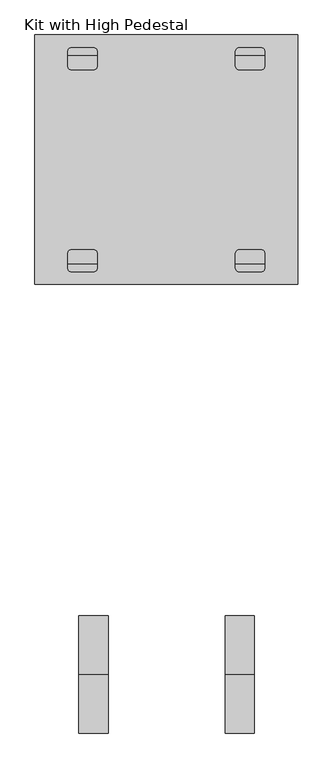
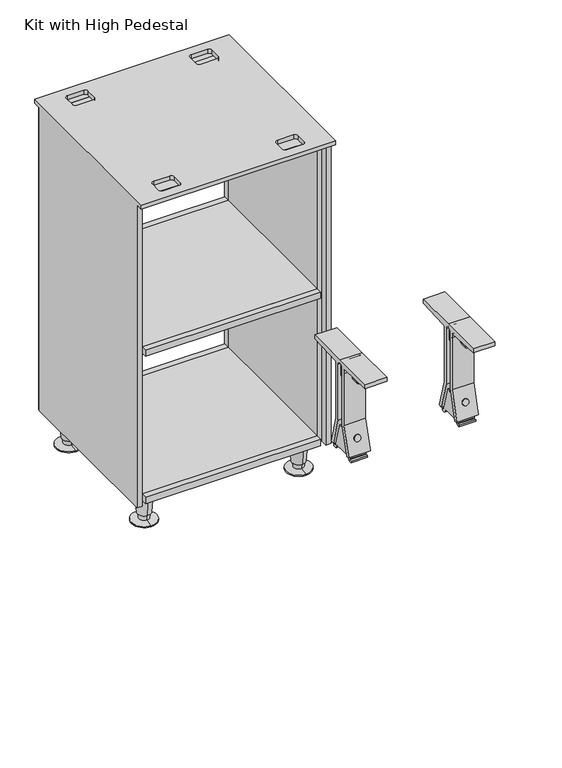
"""IFC4 building model written with IfcOpenShell, lengths in millimetres: furniture geometry, Steelcase - C Scape - Mid Storage Support - Mirrored Application : Kit with High Pedestal."""

from ifc_helpers import new_model, si_unit, point, frame, frame_2d, origin, place, context, project, spatial, polyline, circle_curve, trimmed, segment, composite_curve, outline, extrude, faceted_brep, source, transform, mapped, element, save
from ifc_brep_helpers import plane_surface, cylinder_surface, revolved_surface, advanced_brep


def kit_with_high_pedestal_ce1e90b8(model_context):
    return source(origin(), model_context, "Body", "SolidModel", [
        advanced_brep(
        [(485.775, 716.4234203, 0.0), (485.775, 775.6488603, 0.0), (485.775, 746.0361403, 0.0), (485.775, 716.4234203, 2.6912335), (485.775, 775.6488603, 2.6912335), (485.775, 734.0785526, 5.8043097), (485.775, 757.993728, 5.8043097), (485.775, 733.3843753, 19.05), (485.775, 758.6879052, 19.05), (485.775, 730.6582796, 19.05), (485.775, 761.4140009, 19.05), (485.775, 726.6619623, 76.2), (485.775, 765.4103183, 76.2), (485.775, 746.0361403, 76.2)],
        [
            (0, 1, circle_curve(frame((485.775, 746.0361403, 0.0), z_axis=(0.0, 0.0, -1.0), x_axis=(0.0, 1.0, 0.0)), 29.61272)),
            (1, 2),
            (2, 0),
            (1, 0, circle_curve(frame((485.775, 746.0361403, 0.0), z_axis=(0.0, 0.0, -1.0), x_axis=(0.0, 1.0, 0.0)), 29.61272)),
            (3, 4, circle_curve(frame((485.775, 746.0361403, 2.6912335), z_axis=(0.0, 0.0, -1.0), x_axis=(0.0, 1.0, 0.0)), 29.61272)),
            (4, 1),
            (0, 3),
            (4, 3, circle_curve(frame((485.775, 746.0361403, 2.6912335), z_axis=(0.0, 0.0, -1.0), x_axis=(0.0, 1.0, 0.0)), 29.61272)),
            (5, 6, circle_curve(frame((485.775, 746.0361403, 5.8043097), z_axis=(0.0, 0.0, -1.0), x_axis=(0.0, 1.0, 0.0)), 11.9575877)),
            (6, 4),
            (3, 5),
            (6, 5, circle_curve(frame((485.775, 746.0361403, 5.8043097), z_axis=(0.0, 0.0, -1.0), x_axis=(0.0, 1.0, 0.0)), 11.9575877)),
            (7, 8, circle_curve(frame((485.775, 746.0361403, 19.05), z_axis=(0.0, 0.0, -1.0), x_axis=(0.0, 1.0, 0.0)), 12.6517649)),
            (8, 6),
            (5, 7),
            (8, 7, circle_curve(frame((485.775, 746.0361403, 19.05), z_axis=(0.0, 0.0, -1.0), x_axis=(0.0, 1.0, 0.0)), 12.6517649)),
            (9, 10, circle_curve(frame((485.775, 746.0361403, 19.05), z_axis=(0.0, 0.0, -1.0), x_axis=(0.0, 1.0, 0.0)), 15.3778607)),
            (10, 8),
            (7, 9),
            (10, 9, circle_curve(frame((485.775, 746.0361403, 19.05), z_axis=(0.0, 0.0, -1.0), x_axis=(0.0, 1.0, 0.0)), 15.3778607)),
            (11, 12, circle_curve(frame((485.775, 746.0361403, 76.2), z_axis=(0.0, 0.0, -1.0), x_axis=(0.0, 1.0, 0.0)), 19.374178)),
            (12, 10),
            (9, 11),
            (12, 11, circle_curve(frame((485.775, 746.0361403, 76.2), z_axis=(0.0, 0.0, -1.0), x_axis=(0.0, 1.0, 0.0)), 19.374178)),
            (13, 12),
            (11, 13),
        ],
        [
            plane_surface(frame((485.775, 746.0361403, 0.0), z_axis=(0.0, 0.0, -1.0), x_axis=(0.0, 1.0, 0.0))),
            cylinder_surface(frame((485.775, 746.0361403, -7.7422201), z_axis=(0.0, 0.0, 1.0), x_axis=(0.0, 1.0, 0.0)), 29.61272),
            revolved_surface(polyline([(485.775, 775.6488603, 2.6912335), (485.775, 757.993728, 5.8043097)]), (485.775, 746.0361403, -7.7422201), (0.0, 0.0, 1.0)),
            revolved_surface(polyline([(485.775, 757.993728, 5.8043097), (485.775, 758.6879052, 19.05)]), (485.775, 746.0361403, -7.7422201), (0.0, 0.0, 1.0)),
            plane_surface(frame((485.775, 746.0361403, 19.05), z_axis=(0.0, 0.0, -1.0), x_axis=(0.0, 1.0, 0.0))),
            revolved_surface(polyline([(485.775, 761.4140009, 19.05), (485.775, 765.4103183, 76.2)]), (485.775, 746.0361403, -7.7422201), (0.0, 0.0, 1.0)),
            plane_surface(frame((485.775, 746.0361403, 76.2), z_axis=(0.0, 0.0, 1.0), x_axis=(0.0, 1.0, 0.0))),
        ],
        [
            (0, [[1, 2, 3]]),
            (0, [[4, -3, -2]]),
            (1, [[5, 6, -1, 7]]),
            (1, [[8, -7, -4, -6]]),
            (2, [[9, 10, -5, 11]]),
            (2, [[12, -11, -8, -10]]),
            (3, [[13, 14, -9, 15]]),
            (3, [[16, -15, -12, -14]]),
            (4, [[17, 18, -13, 19]]),
            (4, [[20, -19, -16, -18]]),
            (5, [[21, 22, -17, 23]]),
            (5, [[24, -23, -20, -22]]),
            (6, [[25, -21, 26]]),
            (6, [[-26, -24, -25]]),
        ],
    ),
        advanced_brep(
        [(485.775, 1071.902017, 76.2), (485.775, 1033.153661, 76.2), (485.775, 1052.527839, 76.2), (485.775, 1067.9056997, 19.05), (485.775, 1037.1499783, 19.05), (485.775, 1065.1796039, 19.05), (485.775, 1039.8760741, 19.05), (485.775, 1064.4854267, 5.8043097), (485.775, 1040.5702513, 5.8043097), (485.775, 1082.140559, 2.6912335), (485.775, 1022.915119, 2.6912335), (485.775, 1082.140559, 0.0), (485.775, 1022.915119, 0.0), (485.775, 1052.527839, 0.0)],
        [
            (0, 1, circle_curve(frame((485.775, 1052.527839, 76.2), z_axis=(0.0, 0.0, 1.0), x_axis=(0.0, -1.0, 0.0)), 19.374178)),
            (1, 2),
            (2, 0),
            (1, 0, circle_curve(frame((485.775, 1052.527839, 76.2), z_axis=(0.0, 0.0, 1.0), x_axis=(0.0, -1.0, 0.0)), 19.374178)),
            (3, 4, circle_curve(frame((485.775, 1052.527839, 19.05), z_axis=(0.0, 0.0, 1.0), x_axis=(0.0, -1.0, 0.0)), 15.3778607)),
            (4, 1),
            (0, 3),
            (4, 3, circle_curve(frame((485.775, 1052.527839, 19.05), z_axis=(0.0, 0.0, 1.0), x_axis=(0.0, -1.0, 0.0)), 15.3778607)),
            (5, 6, circle_curve(frame((485.775, 1052.527839, 19.05), z_axis=(0.0, 0.0, 1.0), x_axis=(0.0, -1.0, 0.0)), 12.6517649)),
            (6, 4),
            (3, 5),
            (6, 5, circle_curve(frame((485.775, 1052.527839, 19.05), z_axis=(0.0, 0.0, 1.0), x_axis=(0.0, -1.0, 0.0)), 12.6517649)),
            (7, 8, circle_curve(frame((485.775, 1052.527839, 5.8043097), z_axis=(0.0, 0.0, 1.0), x_axis=(0.0, -1.0, 0.0)), 11.9575877)),
            (8, 6),
            (5, 7),
            (8, 7, circle_curve(frame((485.775, 1052.527839, 5.8043097), z_axis=(0.0, 0.0, 1.0), x_axis=(0.0, -1.0, 0.0)), 11.9575877)),
            (9, 10, circle_curve(frame((485.775, 1052.527839, 2.6912335), z_axis=(0.0, 0.0, 1.0), x_axis=(0.0, -1.0, 0.0)), 29.61272)),
            (10, 8),
            (7, 9),
            (10, 9, circle_curve(frame((485.775, 1052.527839, 2.6912335), z_axis=(0.0, 0.0, 1.0), x_axis=(0.0, -1.0, 0.0)), 29.61272)),
            (11, 12, circle_curve(frame((485.775, 1052.527839, 0.0), z_axis=(0.0, 0.0, 1.0), x_axis=(0.0, -1.0, 0.0)), 29.61272)),
            (12, 10),
            (9, 11),
            (12, 11, circle_curve(frame((485.775, 1052.527839, 0.0), z_axis=(0.0, 0.0, 1.0), x_axis=(0.0, -1.0, 0.0)), 29.61272)),
            (13, 12),
            (11, 13),
        ],
        [
            plane_surface(frame((485.775, 1052.527839, 76.2), z_axis=(0.0, 0.0, 1.0), x_axis=(0.0, -1.0, 0.0))),
            revolved_surface(polyline([(485.775, 1033.153661, 76.2), (485.775, 1037.1499783, 19.05)]), (485.775, 1052.527839, -7.7422201), (0.0, 0.0, -1.0)),
            plane_surface(frame((485.775, 1052.527839, 19.05), z_axis=(0.0, 0.0, -1.0), x_axis=(0.0, -1.0, 0.0))),
            revolved_surface(polyline([(485.775, 1039.8760741, 19.05), (485.775, 1040.5702513, 5.8043097)]), (485.775, 1052.527839, -7.7422201), (0.0, 0.0, -1.0)),
            revolved_surface(polyline([(485.775, 1040.5702513, 5.8043097), (485.775, 1022.915119, 2.6912335)]), (485.775, 1052.527839, -7.7422201), (0.0, 0.0, -1.0)),
            cylinder_surface(frame((485.775, 1052.527839, -7.7422201), z_axis=(0.0, 0.0, -1.0), x_axis=(0.0, -1.0, 0.0)), 29.61272),
            plane_surface(frame((485.775, 1052.527839, 0.0), z_axis=(0.0, 0.0, -1.0), x_axis=(0.0, -1.0, 0.0))),
        ],
        [
            (0, [[1, 2, 3]]),
            (0, [[4, -3, -2]]),
            (1, [[5, 6, -1, 7]]),
            (1, [[8, -7, -4, -6]]),
            (2, [[9, 10, -5, 11]]),
            (2, [[12, -11, -8, -10]]),
            (3, [[13, 14, -9, 15]]),
            (3, [[16, -15, -12, -14]]),
            (4, [[17, 18, -13, 19]]),
            (4, [[20, -19, -16, -18]]),
            (5, [[21, 22, -17, 23]]),
            (5, [[24, -23, -20, -22]]),
            (6, [[25, -21, 26]]),
            (6, [[-26, -24, -25]]),
        ],
    ),
        advanced_brep(
        [(122.5548062, 726.6619623, 76.2), (122.5548062, 765.4103183, 76.2), (122.5548062, 746.0361403, 76.2), (122.5548062, 730.6582796, 19.05), (122.5548062, 761.4140009, 19.05), (122.5548062, 733.3843753, 19.05), (122.5548062, 758.6879052, 19.05), (122.5548062, 734.0785526, 5.8043097), (122.5548062, 757.993728, 5.8043097), (122.5548062, 716.4234203, 2.6912335), (122.5548062, 775.6488603, 2.6912335), (122.5548062, 716.4234203, 0.0), (122.5548062, 775.6488603, 0.0), (122.5548062, 746.0361403, 0.0)],
        [
            (0, 1, circle_curve(frame((122.5548062, 746.0361403, 76.2), z_axis=(0.0, 0.0, 1.0), x_axis=(0.0, 1.0, 0.0)), 19.374178)),
            (1, 2),
            (2, 0),
            (1, 0, circle_curve(frame((122.5548062, 746.0361403, 76.2), z_axis=(0.0, 0.0, 1.0), x_axis=(0.0, 1.0, 0.0)), 19.374178)),
            (3, 4, circle_curve(frame((122.5548062, 746.0361403, 19.05), z_axis=(0.0, 0.0, 1.0), x_axis=(0.0, 1.0, 0.0)), 15.3778607)),
            (4, 1),
            (0, 3),
            (4, 3, circle_curve(frame((122.5548062, 746.0361403, 19.05), z_axis=(0.0, 0.0, 1.0), x_axis=(0.0, 1.0, 0.0)), 15.3778607)),
            (5, 6, circle_curve(frame((122.5548062, 746.0361403, 19.05), z_axis=(0.0, 0.0, 1.0), x_axis=(0.0, 1.0, 0.0)), 12.6517649)),
            (6, 4),
            (3, 5),
            (6, 5, circle_curve(frame((122.5548062, 746.0361403, 19.05), z_axis=(0.0, 0.0, 1.0), x_axis=(0.0, 1.0, 0.0)), 12.6517649)),
            (7, 8, circle_curve(frame((122.5548062, 746.0361403, 5.8043097), z_axis=(0.0, 0.0, 1.0), x_axis=(0.0, 1.0, 0.0)), 11.9575877)),
            (8, 6),
            (5, 7),
            (8, 7, circle_curve(frame((122.5548062, 746.0361403, 5.8043097), z_axis=(0.0, 0.0, 1.0), x_axis=(0.0, 1.0, 0.0)), 11.9575877)),
            (9, 10, circle_curve(frame((122.5548062, 746.0361403, 2.6912335), z_axis=(0.0, 0.0, 1.0), x_axis=(0.0, 1.0, 0.0)), 29.61272)),
            (10, 8),
            (7, 9),
            (10, 9, circle_curve(frame((122.5548062, 746.0361403, 2.6912335), z_axis=(0.0, 0.0, 1.0), x_axis=(0.0, 1.0, 0.0)), 29.61272)),
            (11, 12, circle_curve(frame((122.5548062, 746.0361403, 0.0), z_axis=(0.0, 0.0, 1.0), x_axis=(0.0, 1.0, 0.0)), 29.61272)),
            (12, 10),
            (9, 11),
            (12, 11, circle_curve(frame((122.5548062, 746.0361403, 0.0), z_axis=(0.0, 0.0, 1.0), x_axis=(0.0, 1.0, 0.0)), 29.61272)),
            (13, 12),
            (11, 13),
        ],
        [
            plane_surface(frame((122.5548062, 746.0361403, 76.2), z_axis=(0.0, 0.0, 1.0), x_axis=(0.0, 1.0, 0.0))),
            revolved_surface(polyline([(122.5548062, 765.4103183, 76.2), (122.5548062, 761.4140009, 19.05)]), (122.5548062, 746.0361403, -7.7422201), (0.0, 0.0, -1.0)),
            plane_surface(frame((122.5548062, 746.0361403, 19.05), z_axis=(0.0, 0.0, -1.0), x_axis=(0.0, 1.0, 0.0))),
            revolved_surface(polyline([(122.5548062, 758.6879052, 19.05), (122.5548062, 757.993728, 5.8043097)]), (122.5548062, 746.0361403, -7.7422201), (0.0, 0.0, -1.0)),
            revolved_surface(polyline([(122.5548062, 757.993728, 5.8043097), (122.5548062, 775.6488603, 2.6912335)]), (122.5548062, 746.0361403, -7.7422201), (0.0, 0.0, -1.0)),
            cylinder_surface(frame((122.5548062, 746.0361403, -7.7422201), z_axis=(0.0, 0.0, -1.0), x_axis=(0.0, 1.0, 0.0)), 29.61272),
            plane_surface(frame((122.5548062, 746.0361403, 0.0), z_axis=(0.0, 0.0, -1.0), x_axis=(0.0, 1.0, 0.0))),
        ],
        [
            (0, [[1, 2, 3]]),
            (0, [[4, -3, -2]]),
            (1, [[5, 6, -1, 7]]),
            (1, [[8, -7, -4, -6]]),
            (2, [[9, 10, -5, 11]]),
            (2, [[12, -11, -8, -10]]),
            (3, [[13, 14, -9, 15]]),
            (3, [[16, -15, -12, -14]]),
            (4, [[17, 18, -13, 19]]),
            (4, [[20, -19, -16, -18]]),
            (5, [[21, 22, -17, 23]]),
            (5, [[24, -23, -20, -22]]),
            (6, [[25, -21, 26]]),
            (6, [[-26, -24, -25]]),
        ],
    ),
        advanced_brep(
        [(122.5548062, 1082.140559, 0.0), (122.5548062, 1022.915119, 0.0), (122.5548062, 1052.527839, 0.0), (122.5548062, 1082.140559, 2.6912335), (122.5548062, 1022.915119, 2.6912335), (122.5548062, 1064.4854267, 5.8043097), (122.5548062, 1040.5702513, 5.8043097), (122.5548062, 1065.1796039, 19.05), (122.5548062, 1039.8760741, 19.05), (122.5548062, 1067.9056997, 19.05), (122.5548062, 1037.1499783, 19.05), (122.5548062, 1071.902017, 76.2), (122.5548062, 1033.153661, 76.2), (122.5548062, 1052.527839, 76.2)],
        [
            (0, 1, circle_curve(frame((122.5548062, 1052.527839, 0.0), z_axis=(0.0, 0.0, -1.0), x_axis=(0.0, -1.0, 0.0)), 29.61272)),
            (1, 2),
            (2, 0),
            (1, 0, circle_curve(frame((122.5548062, 1052.527839, 0.0), z_axis=(0.0, 0.0, -1.0), x_axis=(0.0, -1.0, 0.0)), 29.61272)),
            (3, 4, circle_curve(frame((122.5548062, 1052.527839, 2.6912335), z_axis=(0.0, 0.0, -1.0), x_axis=(0.0, -1.0, 0.0)), 29.61272)),
            (4, 1),
            (0, 3),
            (4, 3, circle_curve(frame((122.5548062, 1052.527839, 2.6912335), z_axis=(0.0, 0.0, -1.0), x_axis=(0.0, -1.0, 0.0)), 29.61272)),
            (5, 6, circle_curve(frame((122.5548062, 1052.527839, 5.8043097), z_axis=(0.0, 0.0, -1.0), x_axis=(0.0, -1.0, 0.0)), 11.9575877)),
            (6, 4),
            (3, 5),
            (6, 5, circle_curve(frame((122.5548062, 1052.527839, 5.8043097), z_axis=(0.0, 0.0, -1.0), x_axis=(0.0, -1.0, 0.0)), 11.9575877)),
            (7, 8, circle_curve(frame((122.5548062, 1052.527839, 19.05), z_axis=(0.0, 0.0, -1.0), x_axis=(0.0, -1.0, 0.0)), 12.6517649)),
            (8, 6),
            (5, 7),
            (8, 7, circle_curve(frame((122.5548062, 1052.527839, 19.05), z_axis=(0.0, 0.0, -1.0), x_axis=(0.0, -1.0, 0.0)), 12.6517649)),
            (9, 10, circle_curve(frame((122.5548062, 1052.527839, 19.05), z_axis=(0.0, 0.0, -1.0), x_axis=(0.0, -1.0, 0.0)), 15.3778607)),
            (10, 8),
            (7, 9),
            (10, 9, circle_curve(frame((122.5548062, 1052.527839, 19.05), z_axis=(0.0, 0.0, -1.0), x_axis=(0.0, -1.0, 0.0)), 15.3778607)),
            (11, 12, circle_curve(frame((122.5548062, 1052.527839, 76.2), z_axis=(0.0, 0.0, -1.0), x_axis=(0.0, -1.0, 0.0)), 19.374178)),
            (12, 10),
            (9, 11),
            (12, 11, circle_curve(frame((122.5548062, 1052.527839, 76.2), z_axis=(0.0, 0.0, -1.0), x_axis=(0.0, -1.0, 0.0)), 19.374178)),
            (13, 12),
            (11, 13),
        ],
        [
            plane_surface(frame((122.5548062, 1052.527839, 0.0), z_axis=(0.0, 0.0, -1.0), x_axis=(0.0, -1.0, 0.0))),
            cylinder_surface(frame((122.5548062, 1052.527839, -7.7422201), z_axis=(0.0, 0.0, 1.0), x_axis=(0.0, -1.0, 0.0)), 29.61272),
            revolved_surface(polyline([(122.5548062, 1022.915119, 2.6912335), (122.5548062, 1040.5702513, 5.8043097)]), (122.5548062, 1052.527839, -7.7422201), (0.0, 0.0, 1.0)),
            revolved_surface(polyline([(122.5548062, 1040.5702513, 5.8043097), (122.5548062, 1039.8760741, 19.05)]), (122.5548062, 1052.527839, -7.7422201), (0.0, 0.0, 1.0)),
            plane_surface(frame((122.5548062, 1052.527839, 19.05), z_axis=(0.0, 0.0, -1.0), x_axis=(0.0, -1.0, 0.0))),
            revolved_surface(polyline([(122.5548062, 1037.1499783, 19.05), (122.5548062, 1033.153661, 76.2)]), (122.5548062, 1052.527839, -7.7422201), (0.0, 0.0, 1.0)),
            plane_surface(frame((122.5548062, 1052.527839, 76.2), z_axis=(0.0, 0.0, 1.0), x_axis=(0.0, -1.0, 0.0))),
        ],
        [
            (0, [[1, 2, 3]]),
            (0, [[4, -3, -2]]),
            (1, [[5, 6, -1, 7]]),
            (1, [[8, -7, -4, -6]]),
            (2, [[9, 10, -5, 11]]),
            (2, [[12, -11, -8, -10]]),
            (3, [[13, 14, -9, 15]]),
            (3, [[16, -15, -12, -14]]),
            (4, [[17, 18, -13, 19]]),
            (4, [[20, -19, -16, -18]]),
            (5, [[21, 22, -17, 23]]),
            (5, [[24, -23, -20, -22]]),
            (6, [[25, -21, 26]]),
            (6, [[-26, -24, -25]]),
        ],
    ),
        advanced_brep(
        [(76.2, 676.7144509, 838.2), (76.2, 1109.7844509, 838.2), (76.2, 1109.7844509, 828.04), (76.2, 1091.4964509, 828.04), (76.2, 1091.4964509, 76.2), (76.2, 694.7484509, 76.2), (76.2, 694.7484509, 828.04), (76.2, 676.7144509, 828.04), (532.13, 676.7144509, 838.2), (532.13, 676.7144509, 828.04), (532.13, 694.7484509, 828.04), (532.13, 694.7484509, 76.2), (532.13, 1091.4964509, 76.2), (532.13, 1091.4964509, 828.04), (532.13, 1109.7844509, 828.04), (532.13, 1109.7844509, 838.2), (98.4248062, 712.5284276, 92.7100024), (509.9051938, 712.5284276, 92.7100024), (509.9051938, 1073.7164741, 92.7100024), (98.4248062, 1073.7164741, 92.7100024), (519.9127225, 1073.7164741, 828.04), (519.9127225, 1073.7164741, 76.2), (88.4172775, 1073.7164741, 76.2), (88.4172775, 1073.7164741, 828.04), (133.3501938, 1073.7164741, 828.04), (184.1498062, 1073.7164741, 828.04), (424.1799225, 1073.7164741, 828.04), (474.9795349, 1073.7164741, 828.04), (509.9051938, 1073.7164741, 441.604404), (98.4248062, 1073.7164741, 441.604404), (98.4248062, 1073.7164741, 457.2), (509.9051938, 1073.7164741, 457.2), (509.9051938, 1073.7164741, 811.5299709), (98.4248062, 1073.7164741, 811.5299709), (88.4172775, 1091.4964509, 76.2), (519.9127225, 1091.4964509, 76.2), (519.9127225, 694.7484509, 76.2), (519.9127225, 712.5284276, 76.2), (88.4172775, 712.5284276, 76.2), (88.4172775, 694.7484509, 76.2), (424.1799225, 712.5284276, 828.04), (184.1498062, 712.5284276, 828.04), (133.3501938, 712.5284276, 828.04), (88.4172775, 712.5284276, 828.04), (519.9127225, 712.5284276, 828.04), (474.9795349, 712.5284276, 828.04), (98.4248062, 712.5284276, 441.604404), (509.9051938, 712.5284276, 441.604404), (509.9051938, 712.5284276, 457.2), (98.4248062, 712.5284276, 457.2), (98.4248062, 712.5284276, 811.5299709), (509.9051938, 712.5284276, 811.5299709), (177.7998062, 698.8124044, 838.2), (139.7001938, 698.8124044, 838.2), (133.3501938, 705.1631795, 838.2), (133.3501938, 730.5624044, 838.2), (139.7001938, 736.9124044, 838.2), (177.7998062, 736.9124044, 838.2), (184.1498062, 730.5624044, 838.2), (184.1498062, 705.1631795, 838.2), (430.529535, 698.8131795, 838.2), (424.1799225, 705.1631795, 838.2), (424.1799225, 730.5624044, 838.2), (430.5299225, 736.9124044, 838.2), (468.6295349, 736.9124044, 838.2), (474.9795349, 730.5624044, 838.2), (474.9795349, 705.1631795, 838.2), (468.6295349, 698.8131795, 838.2), (184.1498062, 1055.6829392, 838.2), (177.7998062, 1049.3329392, 838.2), (139.7001938, 1049.3321641, 838.2), (133.3501938, 1055.6829392, 838.2), (133.3501938, 1081.0821641, 838.2), (139.7001938, 1087.4321641, 838.2), (177.7998062, 1087.4321641, 838.2), (184.1498062, 1081.0821641, 838.2), (468.6295349, 1049.3321641, 838.2), (430.529535, 1049.3321641, 838.2), (424.1799225, 1055.6829392, 838.2), (424.1799225, 1081.0821641, 838.2), (430.5299225, 1087.4321641, 838.2), (468.6295349, 1087.4321641, 838.2), (474.9795349, 1081.0821641, 838.2), (474.9795349, 1055.6829392, 838.2), (519.9127225, 1091.4964509, 828.04), (474.9795349, 1081.0821641, 828.04), (468.6295349, 1087.4321641, 828.04), (430.5299225, 1087.4321641, 828.04), (424.1799225, 1081.0821641, 828.04), (184.1498062, 1081.0821641, 828.04), (177.7998062, 1087.4321641, 828.04), (139.7001938, 1087.4321641, 828.04), (133.3501938, 1081.0821641, 828.04), (88.4172775, 1091.4964509, 828.04), (88.4172775, 694.7484509, 828.04), (133.3501938, 705.1631795, 828.04), (139.7001938, 698.8131795, 828.04), (177.7998062, 698.8124044, 828.04), (184.1498062, 705.1631795, 828.04), (424.1799225, 705.1631795, 828.04), (430.529535, 698.8131795, 828.04), (468.6295349, 698.8124044, 828.04), (474.9795349, 705.1631795, 828.04), (519.9127225, 694.7484509, 828.04), (184.1498062, 730.5624044, 828.04), (177.7998062, 736.9124044, 828.04), (139.7001938, 736.9124044, 828.04), (133.3501938, 730.5624044, 828.04), (474.9795349, 730.5624044, 828.04), (468.6295349, 736.9124044, 828.04), (430.5299225, 736.9124044, 828.04), (424.1799225, 730.5624044, 828.04), (177.7998062, 1049.3329392, 828.04), (184.1498062, 1055.6829392, 828.04), (133.3501938, 1055.6829392, 828.04), (139.7001938, 1049.3329392, 828.04), (430.5295349, 1049.3321641, 828.04), (468.6295349, 1049.3321641, 828.04), (474.9795349, 1055.6829392, 828.04), (424.1799225, 1055.6829392, 828.04)],
        [
            (0, 1),
            (1, 2),
            (2, 3),
            (3, 4),
            (4, 5),
            (5, 6),
            (6, 7),
            (7, 0),
            (8, 9),
            (9, 10),
            (10, 11),
            (11, 12),
            (12, 13),
            (13, 14),
            (14, 15),
            (15, 8),
            (16, 17),
            (17, 18),
            (18, 19),
            (19, 16),
            (20, 21),
            (21, 22),
            (22, 23),
            (23, 24),
            (24, 25),
            (25, 26),
            (26, 27),
            (27, 20),
            (18, 28),
            (28, 29),
            (29, 19),
            (30, 31),
            (31, 32),
            (32, 33),
            (33, 30),
            (34, 22),
            (21, 35),
            (35, 12),
            (11, 36),
            (36, 37),
            (37, 38),
            (38, 39),
            (39, 5),
            (4, 34),
            (40, 41),
            (41, 42),
            (42, 43),
            (43, 38),
            (37, 44),
            (44, 45),
            (45, 40),
            (16, 46),
            (46, 47),
            (47, 17),
            (48, 49),
            (49, 50),
            (50, 51),
            (51, 48),
            (48, 31),
            (30, 49),
            (28, 47),
            (46, 29),
            (0, 8),
            (15, 1),
            (52, 53),
            (53, 54, circle_curve(frame((139.7001938, 705.1631795, 838.2), z_axis=(0.0, 0.0, -1.0), x_axis=(0.0, -1.0, 0.0)), 6.35)),
            (54, 55),
            (55, 56, circle_curve(frame((139.7001938, 730.5624044, 838.2), z_axis=(0.0, 0.0, -1.0), x_axis=(0.0, -1.0, 0.0)), 6.35)),
            (56, 57),
            (57, 58, circle_curve(frame((177.7998062, 730.5624044, 838.2), z_axis=(0.0, 0.0, -1.0), x_axis=(0.0, -1.0, 0.0)), 6.35)),
            (58, 59),
            (59, 52, circle_curve(frame((177.7998062, 705.1631795, 838.2), z_axis=(0.0, 0.0, -1.0), x_axis=(0.0, -1.0, 0.0)), 6.35)),
            (60, 61, circle_curve(frame((430.5299225, 705.1631795, 838.2), z_axis=(0.0, 0.0, -1.0), x_axis=(0.0, -1.0, 0.0)), 6.35)),
            (61, 62),
            (62, 63, circle_curve(frame((430.5299225, 730.5624044, 838.2), z_axis=(0.0, 0.0, -1.0), x_axis=(0.0, -1.0, 0.0)), 6.35)),
            (63, 64),
            (64, 65, circle_curve(frame((468.6295349, 730.5624044, 838.2), z_axis=(0.0, 0.0, -1.0), x_axis=(0.0, -1.0, 0.0)), 6.35)),
            (65, 66),
            (66, 67, circle_curve(frame((468.6295349, 705.1631795, 838.2), z_axis=(0.0, 0.0, -1.0), x_axis=(0.0, -1.0, 0.0)), 6.35)),
            (67, 60),
            (68, 69, circle_curve(frame((177.7998062, 1055.6829392, 838.2), z_axis=(0.0, 0.0, -1.0), x_axis=(0.0, 1.0, 0.0)), 6.35)),
            (69, 70),
            (70, 71, circle_curve(frame((139.7001938, 1055.6829392, 838.2), z_axis=(0.0, 0.0, -1.0), x_axis=(0.0, 1.0, 0.0)), 6.35)),
            (71, 72),
            (72, 73, circle_curve(frame((139.7001938, 1081.0821641, 838.2), z_axis=(0.0, 0.0, -1.0), x_axis=(0.0, 1.0, 0.0)), 6.35)),
            (73, 74),
            (74, 75, circle_curve(frame((177.7998062, 1081.0821641, 838.2), z_axis=(0.0, 0.0, -1.0), x_axis=(0.0, 1.0, 0.0)), 6.35)),
            (75, 68),
            (76, 77),
            (77, 78, circle_curve(frame((430.5299225, 1055.6829392, 838.2), z_axis=(0.0, 0.0, -1.0), x_axis=(0.0, 1.0, 0.0)), 6.35)),
            (78, 79),
            (79, 80, circle_curve(frame((430.5299225, 1081.0821641, 838.2), z_axis=(0.0, 0.0, -1.0), x_axis=(0.0, 1.0, 0.0)), 6.35)),
            (80, 81),
            (81, 82, circle_curve(frame((468.6295349, 1081.0821641, 838.2), z_axis=(0.0, 0.0, -1.0), x_axis=(0.0, 1.0, 0.0)), 6.35)),
            (82, 83),
            (83, 76, circle_curve(frame((468.6295349, 1055.6829392, 838.2), z_axis=(0.0, 0.0, -1.0), x_axis=(0.0, 1.0, 0.0)), 6.35)),
            (14, 2),
            (13, 84),
            (84, 20),
            (27, 85),
            (85, 86, circle_curve(frame((468.6295349, 1081.0821641, 828.04), z_axis=(0.0, 0.0, 1.0), x_axis=(0.0, 1.0, 0.0)), 6.35)),
            (86, 87),
            (87, 88, circle_curve(frame((430.5299225, 1081.0821641, 828.04), z_axis=(0.0, 0.0, 1.0), x_axis=(0.0, 1.0, 0.0)), 6.35)),
            (88, 26),
            (25, 89),
            (89, 90, circle_curve(frame((177.7998062, 1081.0821641, 828.04), z_axis=(0.0, 0.0, 1.0), x_axis=(0.0, 1.0, 0.0)), 6.35)),
            (90, 91),
            (91, 92, circle_curve(frame((139.7001938, 1081.0821641, 828.04), z_axis=(0.0, 0.0, 1.0), x_axis=(0.0, 1.0, 0.0)), 6.35)),
            (92, 24),
            (23, 93),
            (93, 3),
            (32, 51),
            (50, 33),
            (9, 7),
            (6, 94),
            (94, 43),
            (42, 95),
            (95, 96, circle_curve(frame((139.7001938, 705.1631795, 828.04), z_axis=(0.0, 0.0, 1.0), x_axis=(0.0, -1.0, 0.0)), 6.35)),
            (96, 97),
            (97, 98, circle_curve(frame((177.7998062, 705.1631795, 828.04), z_axis=(0.0, 0.0, 1.0), x_axis=(0.0, -1.0, 0.0)), 6.35)),
            (98, 41),
            (40, 99),
            (99, 100, circle_curve(frame((430.5299225, 705.1631795, 828.04), z_axis=(0.0, 0.0, 1.0), x_axis=(0.0, -1.0, 0.0)), 6.35)),
            (100, 101),
            (101, 102, circle_curve(frame((468.6295349, 705.1631795, 828.04), z_axis=(0.0, 0.0, 1.0), x_axis=(0.0, -1.0, 0.0)), 6.35)),
            (102, 45),
            (44, 103),
            (103, 10),
            (104, 105, circle_curve(frame((177.7998062, 730.5624044, 828.04), z_axis=(0.0, 0.0, 1.0), x_axis=(0.0, -1.0, 0.0)), 6.35)),
            (105, 106),
            (106, 107, circle_curve(frame((139.7001938, 730.5624044, 828.04), z_axis=(0.0, 0.0, 1.0), x_axis=(0.0, -1.0, 0.0)), 6.35)),
            (107, 42),
            (41, 104),
            (108, 109, circle_curve(frame((468.6295349, 730.5624044, 828.04), z_axis=(0.0, 0.0, 1.0), x_axis=(0.0, -1.0, 0.0)), 6.35)),
            (109, 110),
            (110, 111, circle_curve(frame((430.5299225, 730.5624044, 828.04), z_axis=(0.0, 0.0, 1.0), x_axis=(0.0, -1.0, 0.0)), 6.35)),
            (111, 40),
            (45, 108),
            (96, 53),
            (52, 97),
            (95, 54),
            (107, 55),
            (106, 56),
            (105, 57),
            (104, 58),
            (98, 59),
            (99, 61),
            (60, 100),
            (111, 62),
            (110, 63),
            (109, 64),
            (108, 65),
            (102, 66),
            (101, 67),
            (93, 34),
            (39, 94),
            (84, 35),
            (36, 103),
            (112, 113, circle_curve(frame((177.7998062, 1055.6829392, 828.04), z_axis=(0.0, 0.0, 1.0), x_axis=(0.0, 1.0, 0.0)), 6.35)),
            (113, 25),
            (24, 114),
            (114, 115, circle_curve(frame((139.7001938, 1055.6829392, 828.04), z_axis=(0.0, 0.0, 1.0), x_axis=(0.0, 1.0, 0.0)), 6.35)),
            (115, 112),
            (116, 117),
            (117, 118, circle_curve(frame((468.6295349, 1055.6829392, 828.04), z_axis=(0.0, 0.0, 1.0), x_axis=(0.0, 1.0, 0.0)), 6.35)),
            (118, 27),
            (26, 119),
            (119, 116, circle_curve(frame((430.5299225, 1055.6829392, 828.04), z_axis=(0.0, 0.0, 1.0), x_axis=(0.0, 1.0, 0.0)), 6.35)),
            (115, 70),
            (69, 112),
            (114, 71),
            (92, 72),
            (91, 73),
            (90, 74),
            (89, 75),
            (113, 68),
            (119, 78),
            (77, 116),
            (88, 79),
            (87, 80),
            (86, 81),
            (85, 82),
            (118, 83),
            (117, 76),
        ],
        [
            plane_surface(frame((76.2, 1073.7164741, 92.7100024), z_axis=(-1.0, 0.0, 0.0), x_axis=(0.0, 1.0, 0.0))),
            plane_surface(frame((532.13, 1073.7164741, 92.7100024), z_axis=(1.0, 0.0, 0.0), x_axis=(0.0, -1.0, 0.0))),
            plane_surface(frame((76.2, 712.5284276, 92.7100024), z_axis=(0.0, 0.0, 1.0), x_axis=(1.0, 0.0, 0.0))),
            plane_surface(frame((76.2, 1073.7164741, 92.7100024), z_axis=(0.0, 1.0, 0.0), x_axis=(1.0, 0.0, 0.0))),
            plane_surface(frame((76.2, 1073.7164741, 76.2), z_axis=(0.0, 0.0, -1.0), x_axis=(1.0, 0.0, 0.0))),
            plane_surface(frame((76.2, 712.5284276, 76.2), z_axis=(0.0, -1.0, 0.0), x_axis=(1.0, 0.0, 0.0))),
            plane_surface(frame((76.2, 712.5284276, 457.2), z_axis=(0.0, 0.0, 1.0), x_axis=(1.0, 0.0, 0.0))),
            plane_surface(frame((76.2, 1073.7164741, 441.604404), z_axis=(0.0, 0.0, -1.0), x_axis=(1.0, 0.0, 0.0))),
            plane_surface(frame((76.2, 676.7144509, 838.2), z_axis=(0.0, 0.0, 1.0), x_axis=(1.0, 0.0, 0.0))),
            plane_surface(frame((76.2, 1109.7844509, 838.2), z_axis=(0.0, 1.0, 0.0), x_axis=(1.0, 0.0, 0.0))),
            plane_surface(frame((76.2, 1109.7844509, 828.04), z_axis=(0.0, 0.0, -1.0), x_axis=(1.0, 0.0, 0.0))),
            plane_surface(frame((76.2, 1073.7164741, 811.5299709), z_axis=(0.0, 0.0, -1.0), x_axis=(1.0, 0.0, 0.0))),
            plane_surface(frame((76.2, 712.5284276, 828.04), z_axis=(0.0, 0.0, -1.0), x_axis=(1.0, 0.0, 0.0))),
            plane_surface(frame((76.2, 676.7144509, 828.04), z_axis=(0.0, -1.0, 0.0), x_axis=(1.0, 0.0, 0.0))),
            plane_surface(frame((139.7001938, 698.8124044, 828.04), z_axis=(0.0, 0.0, 1.0), x_axis=(-1.0, 0.0, 0.0))),
            plane_surface(frame((177.8001938, 698.8124044, 828.04), z_axis=(0.0, 1.0, 0.0), x_axis=(0.0, 0.0, 1.0))),
            revolved_surface(polyline([(139.7001938, 698.8131794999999, 828.04), (139.7001938, 698.8131794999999, 838.2)]), (139.7001938, 705.1631795, 838.2), (0.0, 0.0, -1.0)),
            plane_surface(frame((133.3501938, 705.1631795, 828.04), z_axis=(1.0, 0.0, 0.0), x_axis=(0.0, 0.0, 1.0))),
            revolved_surface(polyline([(139.7001938, 724.2124044, 828.04), (139.7001938, 724.2124044, 838.2)]), (139.7001938, 730.5624044, 838.2), (0.0, 0.0, -1.0)),
            plane_surface(frame((139.7001938, 736.9124044, 828.04), z_axis=(0.0, -1.0, 0.0), x_axis=(0.0, 0.0, 1.0))),
            revolved_surface(polyline([(177.7998062, 724.2124044, 828.04), (177.7998062, 724.2124044, 838.2)]), (177.7998062, 730.5624044, 838.2), (0.0, 0.0, -1.0)),
            plane_surface(frame((184.1498062, 730.5624044, 828.04), z_axis=(-1.0, 0.0, 0.0), x_axis=(0.0, 0.0, 1.0))),
            revolved_surface(polyline([(177.7998062, 698.8131794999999, 828.04), (177.7998062, 698.8131794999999, 838.2)]), (177.7998062, 705.1631795, 838.2), (0.0, 0.0, -1.0)),
            revolved_surface(polyline([(430.5299225, 698.8131794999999, 828.04), (430.5299225, 698.8131794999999, 838.2)]), (430.5299225, 705.1631795, 0.0), (0.0, 0.0, -1.0)),
            plane_surface(frame((424.1799225, 705.1631795, 828.04), z_axis=(1.0, 0.0, 0.0), x_axis=(0.0, 0.0, 1.0))),
            revolved_surface(polyline([(430.5299225, 724.2124044, 828.04), (430.5299225, 724.2124044, 838.2)]), (430.5299225, 730.5624044, 0.0), (0.0, 0.0, -1.0)),
            plane_surface(frame((430.5299225, 736.9124044, 828.04), z_axis=(0.0, -1.0, 0.0), x_axis=(0.0, 0.0, 1.0))),
            revolved_surface(polyline([(468.6295349, 724.2124044, 828.04), (468.6295349, 724.2124044, 838.2)]), (468.6295349, 730.5624044, 0.0), (0.0, 0.0, -1.0)),
            plane_surface(frame((474.9795349, 730.5624044, 828.04), z_axis=(-1.0, 0.0, 0.0), x_axis=(0.0, 0.0, 1.0))),
            revolved_surface(polyline([(468.6295349, 698.8131794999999, 828.04), (468.6295349, 698.8131794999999, 838.2)]), (468.6295349, 705.1631795, 0.0), (0.0, 0.0, -1.0)),
            plane_surface(frame((468.6295349, 698.8124044, 828.04), z_axis=(0.0, 1.0, 0.0), x_axis=(0.0, 0.0, 1.0))),
            plane_surface(frame((88.4172775, 1091.4964509, 828.04), z_axis=(0.0, 1.0, 0.0), x_axis=(0.0, 0.0, -1.0))),
            plane_surface(frame((76.2, 694.7484509, 828.04), z_axis=(0.0, -1.0, 0.0), x_axis=(0.0, 0.0, -1.0))),
            plane_surface(frame((88.4172775, 694.7484509, 828.04), z_axis=(1.0, 0.0, 0.0), x_axis=(0.0, 0.0, -1.0))),
            plane_surface(frame((98.4248062, 712.5284276, 828.04), z_axis=(1.0, 0.0, 0.0), x_axis=(0.0, 0.0, -1.0))),
            plane_surface(frame((88.4172775, 1073.7164741, 828.04), z_axis=(1.0, 0.0, 0.0), x_axis=(0.0, 0.0, -1.0))),
            plane_surface(frame((519.9127225, 1091.4964509, 828.04), z_axis=(-1.0, 0.0, 0.0), x_axis=(0.0, 0.0, -1.0))),
            plane_surface(frame((509.9051938, 1073.7164741, 828.04), z_axis=(-1.0, 0.0, 0.0), x_axis=(0.0, 0.0, -1.0))),
            plane_surface(frame((519.9127225, 712.5284276, 828.04), z_axis=(-1.0, 0.0, 0.0), x_axis=(0.0, 0.0, -1.0))),
            plane_surface(frame((519.9127225, 694.7484509, 828.04), z_axis=(0.0, -1.0, 0.0), x_axis=(0.0, 0.0, -1.0))),
            plane_surface(frame((532.13, 1091.4964509, 828.04), z_axis=(0.0, 1.0, 0.0), x_axis=(0.0, 0.0, -1.0))),
            plane_surface(frame((139.7001938, 1049.3321641, 828.04), z_axis=(0.0, 0.0, 1.0), x_axis=(-1.0, 0.0, 0.0))),
            plane_surface(frame((177.8001938, 1049.3321641, 828.04), z_axis=(0.0, 1.0, 0.0), x_axis=(0.0, 0.0, 1.0))),
            revolved_surface(polyline([(139.7001938, 1062.0329391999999, 828.04), (139.7001938, 1062.0329391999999, 838.2)]), (139.7001938, 1055.6829392, 838.2), (0.0, 0.0, -1.0)),
            plane_surface(frame((133.3501938, 1055.6829392, 828.04), z_axis=(1.0, 0.0, 0.0), x_axis=(0.0, 0.0, 1.0))),
            revolved_surface(polyline([(139.7001938, 1087.4321641, 828.04), (139.7001938, 1087.4321641, 838.2)]), (139.7001938, 1081.0821641, 838.2), (0.0, 0.0, -1.0)),
            plane_surface(frame((139.7001938, 1087.4321641, 828.04), z_axis=(0.0, -1.0, 0.0), x_axis=(0.0, 0.0, 1.0))),
            revolved_surface(polyline([(177.7998062, 1087.4321641, 828.04), (177.7998062, 1087.4321641, 838.2)]), (177.7998062, 1081.0821641, 838.2), (0.0, 0.0, -1.0)),
            plane_surface(frame((184.1498062, 1081.0821641, 828.04), z_axis=(-1.0, 0.0, 0.0), x_axis=(0.0, 0.0, 1.0))),
            revolved_surface(polyline([(177.7998062, 1062.0329391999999, 828.04), (177.7998062, 1062.0329391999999, 838.2)]), (177.7998062, 1055.6829392, 838.2), (0.0, 0.0, -1.0)),
            revolved_surface(polyline([(430.5299225, 1062.0329391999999, 828.04), (430.5299225, 1062.0329391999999, 838.2)]), (430.5299225, 1055.6829392, 0.0), (0.0, 0.0, -1.0)),
            plane_surface(frame((424.1799225, 1055.6829392, 828.04), z_axis=(1.0, 0.0, 0.0), x_axis=(0.0, 0.0, 1.0))),
            revolved_surface(polyline([(430.5299225, 1087.4321641, 828.04), (430.5299225, 1087.4321641, 838.2)]), (430.5299225, 1081.0821641, 0.0), (0.0, 0.0, -1.0)),
            plane_surface(frame((430.5299225, 1087.4321641, 828.04), z_axis=(0.0, -1.0, 0.0), x_axis=(0.0, 0.0, 1.0))),
            revolved_surface(polyline([(468.6295349, 1087.4321641, 828.04), (468.6295349, 1087.4321641, 838.2)]), (468.6295349, 1081.0821641, 0.0), (0.0, 0.0, -1.0)),
            plane_surface(frame((474.9795349, 1081.0821641, 828.04), z_axis=(-1.0, 0.0, 0.0), x_axis=(0.0, 0.0, 1.0))),
            revolved_surface(polyline([(468.6295349, 1062.0329391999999, 828.04), (468.6295349, 1062.0329391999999, 838.2)]), (468.6295349, 1055.6829392, 0.0), (0.0, 0.0, -1.0)),
            plane_surface(frame((468.6295349, 1049.3321641, 828.04), z_axis=(0.0, 1.0, 0.0), x_axis=(0.0, 0.0, 1.0))),
        ],
        [
            (0, [[1, 2, 3, 4, 5, 6, 7, 8]]),
            (1, [[9, 10, 11, 12, 13, 14, 15, 16]]),
            (2, [[17, 18, 19, 20]]),
            (3, [[21, 22, 23, 24, 25, 26, 27, 28], [-19, 29, 30, 31], [32, 33, 34, 35]]),
            (4, [[36, -22, 37, 38, -12, 39, 40, 41, 42, 43, -5, 44]]),
            (5, [[45, 46, 47, 48, -41, 49, 50, 51], [-17, 52, 53, 54], [55, 56, 57, 58]]),
            (6, [[-55, 59, -32, 60]]),
            (7, [[-30, 61, -53, 62]]),
            (8, [[-1, 63, -16, 64], [65, 66, 67, 68, 69, 70, 71, 72], [73, 74, 75, 76, 77, 78, 79, 80], [81, 82, 83, 84, 85, 86, 87, 88], [89, 90, 91, 92, 93, 94, 95, 96]]),
            (9, [[-2, -64, -15, 97]]),
            (10, [[-97, -14, 98, 99, -28, 100, 101, 102, 103, 104, -26, 105, 106, 107, 108, 109, -24, 110, 111, -3]]),
            (11, [[-34, 112, -57, 113]]),
            (12, [[114, -7, 115, 116, -47, 117, 118, 119, 120, 121, -45, 122, 123, 124, 125, 126, -50, 127, 128, -10]]),
            (13, [[-8, -114, -9, -63]]),
            (14, [[129, 130, 131, 132, -46, 133]]),
            (14, [[134, 135, 136, 137, -51, 138]]),
            (15, [[139, -65, 140, -119]]),
            (16, [[-139, -118, 141, -66]]),
            (17, [[-141, -117, -132, 142, -67]]),
            (18, [[-131, 143, -68, -142]]),
            (19, [[-130, 144, -69, -143]]),
            (20, [[-129, 145, -70, -144]]),
            (21, [[-145, -133, -121, 146, -71]]),
            (22, [[-140, -72, -146, -120]]),
            (23, [[147, -73, 148, -123]]),
            (24, [[-147, -122, -137, 149, -74]]),
            (25, [[-136, 150, -75, -149]]),
            (26, [[-135, 151, -76, -150]]),
            (27, [[-134, 152, -77, -151]]),
            (28, [[-152, -138, -126, 153, -78]]),
            (29, [[-153, -125, 154, -79]]),
            (30, [[-148, -80, -154, -124]]),
            (31, [[-44, -4, -111, 155]]),
            (32, [[-43, 156, -115, -6]]),
            (33, [[-42, -48, -116, -156]]),
            (34, [[-31, -62, -52, -20]]),
            (34, [[-35, -113, -56, -60]]),
            (35, [[-36, -155, -110, -23]]),
            (36, [[-37, -21, -99, 157]]),
            (37, [[-29, -18, -54, -61]]),
            (37, [[-33, -59, -58, -112]]),
            (38, [[-40, 158, -127, -49]]),
            (39, [[-39, -11, -128, -158]]),
            (40, [[-38, -157, -98, -13]]),
            (41, [[159, 160, -25, 161, 162, 163]]),
            (41, [[164, 165, 166, -27, 167, 168]]),
            (42, [[-163, 169, -82, 170]]),
            (43, [[-162, 171, -83, -169]]),
            (44, [[-171, -161, -109, 172, -84]]),
            (45, [[-172, -108, 173, -85]]),
            (46, [[-173, -107, 174, -86]]),
            (47, [[-174, -106, 175, -87]]),
            (48, [[-175, -105, -160, 176, -88]]),
            (49, [[-159, -170, -81, -176]]),
            (50, [[-168, 177, -90, 178]]),
            (51, [[-177, -167, -104, 179, -91]]),
            (52, [[-179, -103, 180, -92]]),
            (53, [[-180, -102, 181, -93]]),
            (54, [[-181, -101, 182, -94]]),
            (55, [[-182, -100, -166, 183, -95]]),
            (56, [[-165, 184, -96, -183]]),
            (57, [[-164, -178, -89, -184]]),
        ],
    ),
        faceted_brep([(88.4172775, 1091.4964509, 828.04), (88.4172775, 1073.7164741, 828.04), (519.9126, 1073.7164741, 828.04), (519.9126, 1091.4964509, 828.04), (531.0966522, 1091.4964509, 828.04), (531.0966522, 1095.9415284, 828.04), (521.9524429, 1095.9415284, 828.04), (509.905, 1088.7026944, 828.04), (509.905, 1087.9405633, 828.04), (98.4248062, 1087.9405633, 828.04), (98.4248062, 1088.7024354, 828.04), (86.3769322, 1095.9415284, 828.04), (77.2330765, 1095.9415284, 828.04), (77.2330765, 1091.4964509, 828.04), (88.4172775, 1091.4964509, 76.2), (77.2330765, 1091.4964509, 76.2), (77.2330765, 1095.9415284, 76.2), (86.3769322, 1095.9415284, 76.2), (98.4248062, 1088.7024354, 76.2), (98.4248062, 1087.9405633, 76.2), (509.905, 1087.9405633, 76.2), (509.905, 1088.7026944, 76.2), (521.9524429, 1095.9415284, 76.2), (531.0966522, 1095.9415284, 76.2), (531.0966522, 1091.4964509, 76.2), (519.9126, 1091.4964509, 76.2), (519.9126, 1073.7164741, 76.2), (88.4172775, 1073.7164741, 76.2), (98.4248062, 1073.7164741, 811.5299709), (509.905, 1073.7164741, 811.5299709), (509.905, 1073.7164741, 457.2), (98.4248062, 1073.7164741, 457.2), (98.4248062, 1073.7164741, 441.604404), (509.905, 1073.7164741, 441.604404), (509.905, 1073.7164741, 92.7100024), (98.4248062, 1073.7164741, 92.7100024), (98.4248062, 1087.9405633, 811.5299709), (98.4248062, 1087.9405633, 457.2), (98.4248062, 1087.9405633, 441.604404), (98.4248062, 1087.9405633, 92.7100024), (509.905, 1087.9405633, 92.7100024), (509.905, 1087.9405633, 441.604404), (509.905, 1087.9405633, 457.2), (509.905, 1087.9405633, 811.5299709)], [[[0, 1, 2, 3, 4, 5, 6, 7, 8, 9, 10, 11, 12, 13]], [[14, 15, 16, 17, 18, 19, 20, 21, 22, 23, 24, 25, 26, 27]], [[1, 0, 14, 27]], [[2, 1, 27, 26], [28, 29, 30, 31], [32, 33, 34, 35]], [[18, 10, 9, 36, 28, 31, 37, 38, 32, 35, 39, 19]], [[11, 10, 18, 17]], [[12, 11, 17, 16]], [[13, 12, 16, 15]], [[0, 13, 15, 14]], [[4, 3, 25, 24]], [[5, 4, 24, 23]], [[6, 5, 23, 22]], [[7, 6, 22, 21]], [[7, 21, 20, 40, 34, 33, 41, 42, 30, 29, 43, 8]], [[3, 2, 26, 25]], [[29, 28, 36, 43]], [[43, 36, 9, 8]], [[33, 32, 38, 41]], [[41, 38, 37, 42]], [[31, 30, 42, 37]], [[20, 19, 39, 40]], [[35, 34, 40, 39]]]),
        faceted_brep([(509.905, 698.3044412, 828.04), (509.905, 698.3044412, 811.5299709), (509.905, 712.5284276, 811.5299709), (509.905, 712.5284276, 828.04), (98.4248062, 698.3044412, 828.04), (98.4248062, 712.5284276, 828.04), (98.4248062, 712.5284276, 811.5299709), (98.4248062, 698.3044412, 811.5299709)], [[[0, 1, 2, 3]], [[4, 5, 6, 7]], [[1, 0, 4, 7]], [[2, 1, 7, 6]], [[3, 2, 6, 5]], [[0, 3, 5, 4]]]),
        faceted_brep([(509.905, 698.3044412, 457.2), (509.905, 698.3044412, 441.604404), (509.905, 712.5284276, 441.604404), (509.905, 712.5284276, 457.2), (98.4248062, 698.3044412, 457.2), (98.4248062, 712.5284276, 457.2), (98.4248062, 712.5284276, 441.604404), (98.4248062, 698.3044412, 441.604404)], [[[0, 1, 2, 3]], [[4, 5, 6, 7]], [[1, 0, 4, 7]], [[2, 1, 7, 6]], [[3, 2, 6, 5]], [[0, 3, 5, 4]]]),
        faceted_brep([(509.905, 698.3044412, 92.7100024), (509.905, 698.3044412, 76.2), (509.905, 712.5284276, 76.2), (509.905, 712.5284276, 92.7100024), (98.4248062, 698.3044412, 92.7100024), (98.4248062, 712.5284276, 92.7100024), (98.4248062, 712.5284276, 76.2), (98.4248062, 698.3044412, 76.2)], [[[0, 1, 2, 3]], [[4, 5, 6, 7]], [[1, 0, 4, 7]], [[2, 1, 7, 6]], [[3, 2, 6, 5]], [[0, 3, 5, 4]]]),
        extrude(outline(composite_curve([segment(trimmed(circle_curve(frame_2d((0.0, -7.62)), 7.62), [point((0.0, -15.2400001))], [point((0.0, 0.0))], False, "CARTESIAN"), True, "CONTINUOUS"), segment(trimmed(circle_curve(frame_2d((0.0, -7.62)), 7.62), [point((0.0, 0.0))], [point((0.0, -15.2400001))], False, "CARTESIAN"), True, "CONTINUOUS")], self_intersect=False)), frame((431.6372744, -27.6488399, 643.460563), z_axis=(0.0, -0.9612616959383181, 0.27563735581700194), x_axis=(-1.0, 0.0, 0.0)), (0.0, 0.0, 1.0), 1.4986),
        extrude(outline(composite_curve([segment(trimmed(circle_curve(frame_2d((0.0, -7.62)), 7.62), [point((0.0, -15.2400001))], [point((0.0, 0.0))], False, "CARTESIAN"), True, "CONTINUOUS"), segment(trimmed(circle_curve(frame_2d((0.0, -7.62)), 7.62), [point((0.0, 0.0))], [point((0.0, -15.2400001))], False, "CARTESIAN"), True, "CONTINUOUS")], self_intersect=False)), frame((431.6372744, 27.6488399, 643.460563), z_axis=(0.0, 0.9612616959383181, 0.27563735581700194), x_axis=(1.0, 0.0, 0.0)), (0.0, 0.0, 1.0), 1.4986),
        extrude(outline(composite_curve([segment(polyline([(831.0188755, 412.7499939), (796.4677708, 412.7499939)]), True, "CONTINUOUS"), segment(trimmed(circle_curve(frame_2d((796.4677708, 431.7223365)), 18.9723425), [point((796.4677708, 412.7499939))], [point((796.4677708, 450.694679))], False, "CARTESIAN"), True, "CONTINUOUS"), segment(polyline([(796.4677708, 450.694679), (831.0188755, 450.694679), (831.0188755, 412.7499939)]), True, "CONTINUOUS")], self_intersect=False)), frame((0.0, -7.7216, 0.0), z_axis=(0.0, 1.0, 0.0), x_axis=(0.0, 0.0, 1.0)), (0.0, 0.0, 1.0), 15.4432),
        extrude(outline(composite_curve([segment(trimmed(circle_curve(frame_2d((795.2125216, 431.6777999)), 5.08), [point((795.2125216, 426.5977999))], [point((795.2125216, 436.7577999))], False, "CARTESIAN"), True, "CONTINUOUS"), segment(trimmed(circle_curve(frame_2d((795.2125216, 431.6777999)), 5.08), [point((795.2125216, 436.7577999))], [point((795.2125216, 426.5977999))], False, "CARTESIAN"), True, "CONTINUOUS")], self_intersect=False)), frame((0.0, -33.751708, 0.0), z_axis=(0.0, 1.0, 0.0), x_axis=(0.0, 0.0, 1.0)), (0.0, 0.0, 1.0), 67.5034159),
        extrude(outline(polyline([(-12.7029566, 666.75), (0.0, 666.75), (12.7029566, 666.75), (28.4480001, 611.8301829), (28.4480001, 607.0345769), (29.7688272, 605.713791), (34.9250008, 605.713791), (34.9250008, 601.7005912), (32.4173128, 600.2527871), (27.5068015, 600.2527871), (22.9870008, 604.7725827), (22.9870008, 610.3620174), (0.0, 610.3620174), (-22.9870008, 610.3620174), (-22.9870008, 604.7725827), (-27.5068015, 600.2527871), (-32.4173128, 600.2527871), (-34.9250008, 601.7005912), (-34.9250008, 605.713791), (-29.7688272, 605.713791), (-28.4480001, 607.0345769), (-28.4480001, 611.8301829), (-12.7029566, 666.75)])), frame((412.8276575, 0.0, 0.0), z_axis=(1.0, 0.0, 0.0), x_axis=(0.0, 1.0, 0.0)), (0.0, 0.0, 1.0), 37.9446851),
        extrude(outline(composite_curve([segment(polyline([(0.0, 838.2), (101.600003, 838.2), (101.600003, 828.2177708), (19.2990887, 824.4254454)]), True, "CONTINUOUS"), segment(trimmed(circle_curve(frame_2d((19.4630785, 820.8665431)), 3.5626785), [point((19.2990887, 824.4254454))], [point((15.9004, 820.8665431))], True, "CARTESIAN"), True, "CONTINUOUS"), segment(polyline([(15.9004, 820.8665431), (15.9004, 813.4440849), (14.8286664, 813.0540058), (15.9004, 813.0540058), (15.9004, 684.432242), (35.5026697, 616.0710033), (27.860447, 613.8796312), (7.9494757, 683.3174402), (7.9494757, 821.8670528)]), True, "CONTINUOUS"), segment(trimmed(circle_curve(frame_2d((0.0, 821.8670528)), 7.9494757), [point((7.9494757, 821.8670528))], [point((-7.9494757, 821.8670528))], True, "CARTESIAN"), True, "CONTINUOUS"), segment(polyline([(-7.9494757, 821.8670528), (-7.9494757, 683.3174402), (-27.860447, 613.8796312), (-35.5026697, 616.0710033), (-15.9004, 684.432242), (-15.9004, 813.0540058), (-14.8286664, 813.0540058), (-15.9004, 813.4440849), (-15.9004, 820.8665431)]), True, "CONTINUOUS"), segment(trimmed(circle_curve(frame_2d((-19.4630785, 820.8665431)), 3.5626785), [point((-15.9004, 820.8665431))], [point((-19.2990887, 824.4254454))], True, "CARTESIAN"), True, "CONTINUOUS"), segment(polyline([(-19.2990887, 824.4254454), (-101.600003, 828.2177708), (-101.600003, 838.2), (0.0, 838.2)]), True, "CONTINUOUS")], self_intersect=False)), frame((406.4, 0.0, 0.0), z_axis=(1.0, 0.0, 0.0), x_axis=(0.0, 1.0, 0.0)), (0.0, 0.0, 1.0), 50.8),
        extrude(outline(composite_curve([segment(trimmed(circle_curve(frame_2d((0.0, -7.62)), 7.62), [point((0.0, -15.2400001))], [point((0.0, 0.0))], False, "CARTESIAN"), True, "CONTINUOUS"), segment(trimmed(circle_curve(frame_2d((0.0, -7.62)), 7.62), [point((0.0, 0.0))], [point((0.0, -15.2400001))], False, "CARTESIAN"), True, "CONTINUOUS")], self_intersect=False)), frame((177.6372744, -27.6488399, 643.460563), z_axis=(0.0, -0.9612616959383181, 0.27563735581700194), x_axis=(-1.0, 0.0, 0.0)), (0.0, 0.0, 1.0), 1.4986),
        extrude(outline(composite_curve([segment(trimmed(circle_curve(frame_2d((0.0, -7.62)), 7.62), [point((0.0, -15.2400001))], [point((0.0, 0.0))], False, "CARTESIAN"), True, "CONTINUOUS"), segment(trimmed(circle_curve(frame_2d((0.0, -7.62)), 7.62), [point((0.0, 0.0))], [point((0.0, -15.2400001))], False, "CARTESIAN"), True, "CONTINUOUS")], self_intersect=False)), frame((177.6372744, 27.6488399, 643.460563), z_axis=(0.0, 0.9612616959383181, 0.27563735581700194), x_axis=(1.0, 0.0, 0.0)), (0.0, 0.0, 1.0), 1.4986),
        extrude(outline(composite_curve([segment(trimmed(circle_curve(frame_2d((795.2125216, 177.6777999)), 5.08), [point((795.2125216, 172.5977999))], [point((795.2125216, 182.7577999))], False, "CARTESIAN"), True, "CONTINUOUS"), segment(trimmed(circle_curve(frame_2d((795.2125216, 177.6777999)), 5.08), [point((795.2125216, 182.7577999))], [point((795.2125216, 172.5977999))], False, "CARTESIAN"), True, "CONTINUOUS")], self_intersect=False)), frame((0.0, -33.751708, 0.0), z_axis=(0.0, 1.0, 0.0), x_axis=(0.0, 0.0, 1.0)), (0.0, 0.0, 1.0), 67.5034159),
        extrude(outline(composite_curve([segment(polyline([(831.0188755, 158.7499939), (796.4677708, 158.7499939)]), True, "CONTINUOUS"), segment(trimmed(circle_curve(frame_2d((796.4677708, 177.7223365)), 18.9723425), [point((796.4677708, 158.7499939))], [point((796.4677708, 196.694679))], False, "CARTESIAN"), True, "CONTINUOUS"), segment(polyline([(796.4677708, 196.694679), (831.0188755, 196.694679), (831.0188755, 158.7499939)]), True, "CONTINUOUS")], self_intersect=False)), frame((0.0, -7.7216, 0.0), z_axis=(0.0, 1.0, 0.0), x_axis=(0.0, 0.0, 1.0)), (0.0, 0.0, 1.0), 15.4432),
        extrude(outline(polyline([(-12.7029566, 666.75), (0.0, 666.75), (12.7029566, 666.75), (28.4480001, 611.8301829), (28.4480001, 607.0345769), (29.7688272, 605.713791), (34.9250008, 605.713791), (34.9250008, 601.7005912), (32.4173128, 600.2527871), (27.5068015, 600.2527871), (22.9870008, 604.7725827), (22.9870008, 610.3620174), (0.0, 610.3620174), (-22.9870008, 610.3620174), (-22.9870008, 604.7725827), (-27.5068015, 600.2527871), (-32.4173128, 600.2527871), (-34.9250008, 601.7005912), (-34.9250008, 605.713791), (-29.7688272, 605.713791), (-28.4480001, 607.0345769), (-28.4480001, 611.8301829), (-12.7029566, 666.75)])), frame((158.7499939, 0.0, 0.0), z_axis=(1.0, 0.0, 0.0), x_axis=(0.0, 1.0, 0.0)), (0.0, 0.0, 1.0), 37.9446851),
        extrude(outline(composite_curve([segment(polyline([(0.0, 838.2), (101.600003, 838.2), (101.600003, 828.2177708), (19.2990887, 824.4254454)]), True, "CONTINUOUS"), segment(trimmed(circle_curve(frame_2d((19.4630785, 820.8665431)), 3.5626785), [point((19.2990887, 824.4254454))], [point((15.9004, 820.8665431))], True, "CARTESIAN"), True, "CONTINUOUS"), segment(polyline([(15.9004, 820.8665431), (15.9004, 813.4440849), (14.8286664, 813.0540058), (15.9004, 813.0540058), (15.9004, 684.432242), (35.5026697, 616.0710033), (27.860447, 613.8796312), (7.9494757, 683.3174402), (7.9494757, 821.8670528)]), True, "CONTINUOUS"), segment(trimmed(circle_curve(frame_2d((0.0, 821.8670528)), 7.9494757), [point((7.9494757, 821.8670528))], [point((-7.9494757, 821.8670528))], True, "CARTESIAN"), True, "CONTINUOUS"), segment(polyline([(-7.9494757, 821.8670528), (-7.9494757, 683.3174402), (-27.860447, 613.8796312), (-35.5026697, 616.0710033), (-15.9004, 684.432242), (-15.9004, 813.0540058), (-14.8286664, 813.0540058), (-15.9004, 813.4440849), (-15.9004, 820.8665431)]), True, "CONTINUOUS"), segment(trimmed(circle_curve(frame_2d((-19.4630785, 820.8665431)), 3.5626785), [point((-15.9004, 820.8665431))], [point((-19.2990887, 824.4254454))], True, "CARTESIAN"), True, "CONTINUOUS"), segment(polyline([(-19.2990887, 824.4254454), (-101.600003, 828.2177708), (-101.600003, 838.2), (0.0, 838.2)]), True, "CONTINUOUS")], self_intersect=False)), frame((152.4, 0.0, 0.0), z_axis=(1.0, 0.0, 0.0), x_axis=(0.0, 1.0, 0.0)), (0.0, 0.0, 1.0), 50.8),
    ])


if __name__ == "__main__":
    model = new_model("IFC4")
    model_context = context("Model", 3, world=origin())
    ifc_project = project(units=[si_unit("LENGTHUNIT", "METRE", prefix="MILLI")], contexts=[model_context])
    site = spatial("IfcSite", under=ifc_project)
    building = spatial("IfcBuilding", under=site)
    placement = place(None, origin())
    kit_with_high_pedestal_shape = kit_with_high_pedestal_ce1e90b8(model_context)
    element("IfcFurniture", 1, ObjectType="Steelcase - C Scape - Mid Storage Support - Mirrored Application : Kit with High Pedestal", at=placement, inside=building, context=model_context, shape_type="MappedRepresentation", body=[
        mapped(kit_with_high_pedestal_shape, transform((0.0, 0.0, 0.0), x_axis=(1.0, 0.0, 0.0), y_axis=(0.0, 1.0, 0.0), z_axis=(0.0, 0.0, 1.0))),
    ])
    save(model, "model.ifc")
